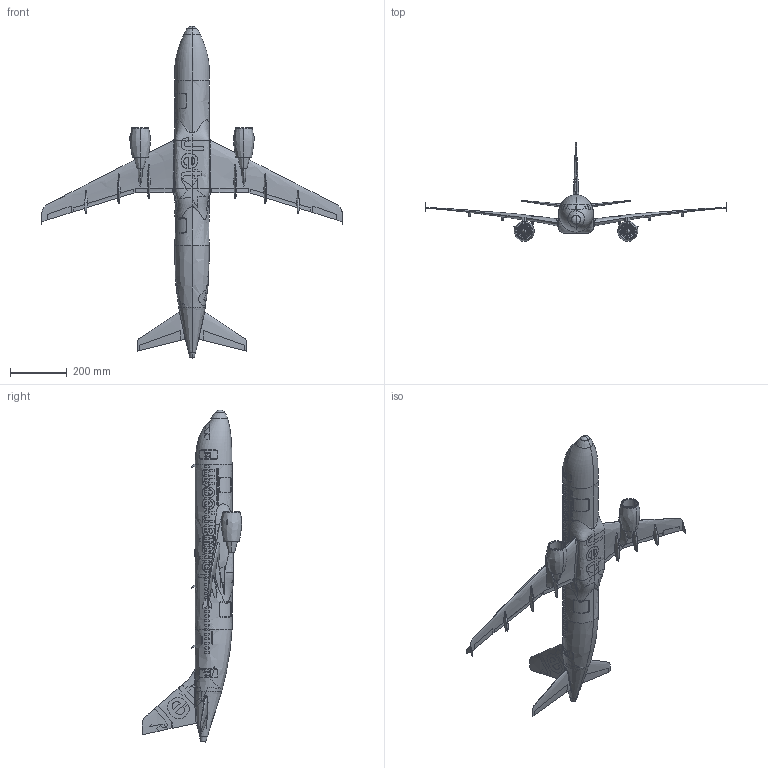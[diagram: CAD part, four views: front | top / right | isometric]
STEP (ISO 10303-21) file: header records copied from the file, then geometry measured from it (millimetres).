
FILE_DESCRIPTION (( 'STEP AP203' ), '1' );
FILE_NAME ('A320.STEP', '2011-08-27T03:05:28', ( '' ), ( '' ), 'SwSTEP 2.0', 'SolidWorks 2010', '' );
FILE_SCHEMA (( 'CONFIG_CONTROL_DESIGN' ));
Products named in the file (1): A320
Bounding box: 1061.78 x 350.41 x 1169.93 mm (x, y, z)
Volume: 14129981.6 mm3; surface area: 824002 mm2
Topology: 1 solids, 1 shells, 1582 faces, 9811 edges, 9312 vertices
Faces by surface type: bspline 1435, plane 115, cylinder 14, torus 14, cone 4
Entity records: 245218 total; most frequent: CARTESIAN_POINT 186843, ORIENTED_EDGE 19614, EDGE_CURVE 9807, B_SPLINE_CURVE_WITH_KNOTS 9455, VERTEX_POINT 9312, EDGE_LOOP 2667, ADVANCED_FACE 1582, FACE_OUTER_BOUND 1582
